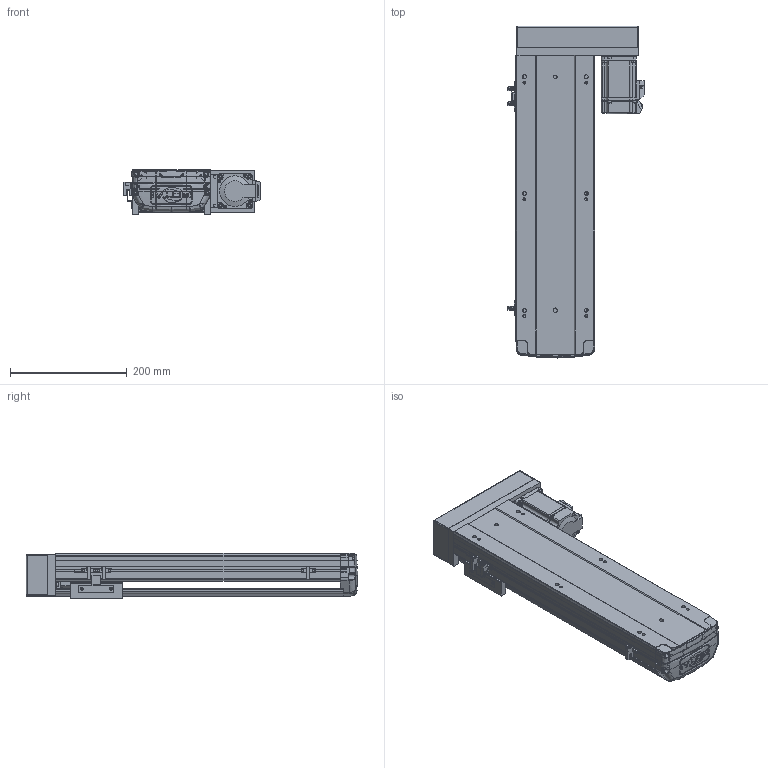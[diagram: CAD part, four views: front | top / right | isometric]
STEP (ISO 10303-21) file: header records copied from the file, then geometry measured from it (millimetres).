
FILE_DESCRIPTION (( 'STEP AP203' ), '1' );
FILE_NAME ('7.STEP', '2020-11-07T00:25:01', ( '' ), ( '' ), 'SwSTEP 2.0', 'SolidWorks 2016', '' );
FILE_SCHEMA (( 'CONFIG_CONTROL_DESIGN' ));
Length unit declared in the file: millimetre
Products named in the file (10): BTH13-BL-02; BTH13-BL-06; BTH13-BL-BM-BR-菁釱; 7; BTH13-BL-HZ; BTH13-BL-01; BTH13-BL-03; BTH13-BL-20; BTH13-BL-P20; BTH13-BL-04
Assembly tree (12 placements, depth 2):
  7
    BTH13-BL-BM-BR-菁釱
    BTH13-BL-03
    BTH13-BL-01
    BTH13-BL-02
    BTH13-BL-04  x4
    BTH13-BL-06
    BTH13-BL-HZ
    BTH13-BL-P20
    BTH13-BL-20
Bounding box: 233.2 x 568.71 x 78 mm (x, y, z)
Volume: 2644227.9 mm3; surface area: 647351.2 mm2
Topology: 13 solids, 13 shells, 1937 faces, 5218 edges, 3377 vertices
Faces by surface type: plane 1094, cylinder 507, bspline 201, cone 102, torus 33
Entity records: 60917 total; most frequent: CARTESIAN_POINT 21394, ORIENTED_EDGE 8450, DIRECTION 7382, EDGE_CURVE 4225, VERTEX_POINT 2741, AXIS2_PLACEMENT_3D 2479, LINE 2424, VECTOR 2424
